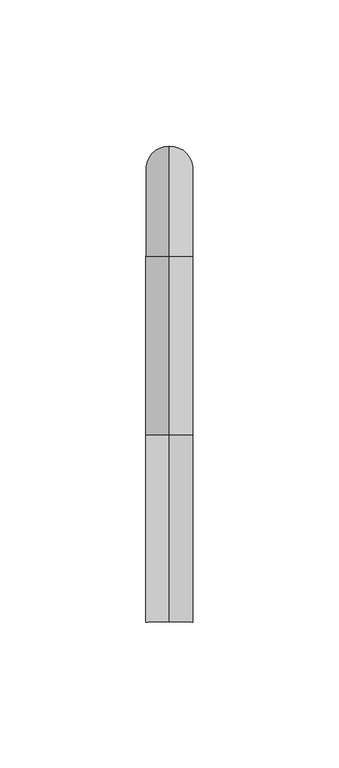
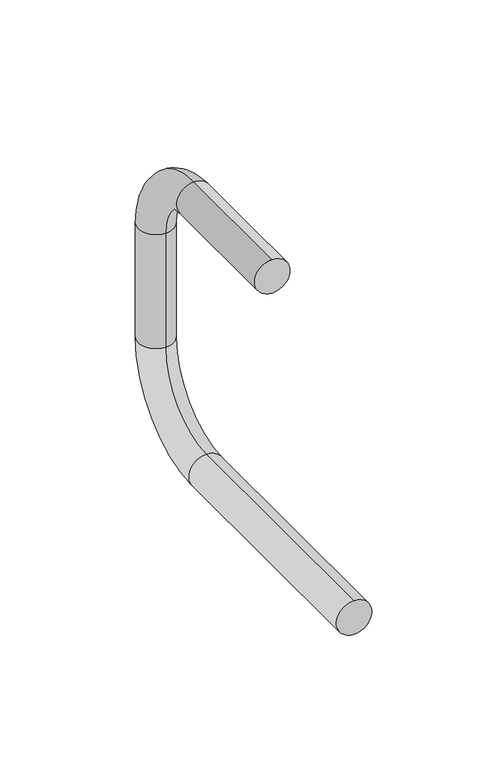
"""IFC4 building model written with IfcOpenShell, lengths in millimetres: pipe fitting geometry, Трубка Г-образная VTm.481.PC из стены : VTm.481.PC."""

from ifc_helpers import new_model, si_unit, point, frame, origin, place, context, project, spatial, circle_curve, ellipse_curve, trimmed, source, transform, mapped, element, save
from ifc_brep_helpers import plane_surface, cylinder_surface, revolved_surface, advanced_brep


def pipe_fitting_d927fdfb(model_context):
    return source(origin(), model_context, "Body", "AdvancedBrep", [
        advanced_brep(
        [(0.0, -115.0, -8.0), (0.0, -115.0, 8.0), (0.0, 0.2295571, -8.0), (0.0, 0.2295571, 8.0), (0.0, 32.0, 39.7704429), (0.0, 48.0, 39.7704429), (0.0, 48.0, 94.2295571), (0.0, 32.0, 94.2295571), (0.0, 10.2295571, 116.0), (0.0, 10.2295571, 132.0), (0.0, -50.9704429, 132.0), (0.0, -50.9704429, 116.0)],
        [
            (0, 1, circle_curve(frame((0.0, -115.0, 0.0), z_axis=(0.0, -1.0, 0.0), x_axis=(0.0, 0.0, 1.0)), 8.0)),
            (1, 0, circle_curve(frame((0.0, -115.0, 0.0), z_axis=(0.0, -1.0, 0.0), x_axis=(0.0, 0.0, 1.0)), 8.0)),
            (0, 2),
            (2, 3, circle_curve(frame((0.0, 0.2295571, 0.0), z_axis=(0.0, -1.0, 0.0), x_axis=(0.0, 0.0, 1.0)), 8.0)),
            (3, 1),
            (3, 2, circle_curve(frame((0.0, 0.2295571, 0.0), z_axis=(0.0, -1.0, 0.0), x_axis=(0.0, 0.0, 1.0)), 8.0)),
            (4, 3, circle_curve(frame((0.0, 0.2295571, 39.7704429), z_axis=(-1.0, 0.0, 0.0), x_axis=(0.0, 0.0, -1.0)), 31.7704429)),
            (2, 5, circle_curve(frame((0.0, 0.2295571, 39.7704429), z_axis=(1.0, 0.0, 0.0), x_axis=(0.0, 0.0, -1.0)), 47.7704429)),
            (5, 4, circle_curve(frame((0.0, 40.0, 39.7704429), z_axis=(0.0, 0.0, -1.0), x_axis=(0.0, -1.0, 0.0)), 8.0)),
            (4, 5, circle_curve(frame((0.0, 40.0, 39.7704429), z_axis=(0.0, 0.0, -1.0), x_axis=(0.0, -1.0, 0.0)), 8.0)),
            (5, 6),
            (6, 7, circle_curve(frame((0.0, 40.0, 94.2295571), z_axis=(0.0, 0.0, -1.0), x_axis=(0.0, -1.0, 0.0)), 8.0)),
            (7, 4),
            (7, 6, circle_curve(frame((0.0, 40.0, 94.2295571), z_axis=(0.0, 0.0, -1.0), x_axis=(0.0, -1.0, 0.0)), 8.0)),
            (8, 7, circle_curve(frame((0.0, 10.2295571, 94.2295571), z_axis=(-1.0, 0.0, 0.0), x_axis=(0.0, 1.0, 0.0)), 21.7704429)),
            (6, 9, circle_curve(frame((0.0, 10.2295571, 94.2295571), z_axis=(1.0, 0.0, 0.0), x_axis=(0.0, 1.0, 0.0)), 37.7704429)),
            (9, 8, circle_curve(frame((0.0, 10.2295571, 124.0), z_axis=(0.0, 1.0, 0.0), x_axis=(0.0, 0.0, -1.0)), 8.0)),
            (8, 9, circle_curve(frame((0.0, 10.2295571, 124.0), z_axis=(0.0, 1.0, 0.0), x_axis=(0.0, 0.0, -1.0)), 8.0)),
            (10, 11, circle_curve(frame((0.0, -50.9704429, 124.0), z_axis=(0.0, -1.0, 0.0), x_axis=(0.0, 0.0, -1.0)), 8.0)),
            (11, 10, circle_curve(frame((0.0, -50.9704429, 124.0), z_axis=(0.0, -1.0, 0.0), x_axis=(0.0, 0.0, -1.0)), 8.0)),
            (9, 10),
            (11, 8),
        ],
        [
            plane_surface(frame((0.0, -115.0, 0.0), z_axis=(0.0, -1.0, 0.0), x_axis=(1.0, 0.0, 0.0))),
            cylinder_surface(frame((0.0, -115.0, 0.0), z_axis=(0.0, -1.0, 0.0), x_axis=(0.0, 0.0, 1.0)), 8.0),
            revolved_surface(trimmed(ellipse_curve(frame((0.0, 0.2295571, 0.0), z_axis=(0.0, -1.0, 0.0), x_axis=(0.0, 0.0, 1.0)), 8.0, 8.0), [point((0.0, 0.2295571, -8.0))], [point((0.0, 0.2295571, 8.0))], True, "CARTESIAN"), (0.0, 0.2295571, 39.7704429), (1.0, 0.0, 0.0)),
            revolved_surface(trimmed(ellipse_curve(frame((0.0, 0.2295571, 0.0), z_axis=(0.0, -1.0, 0.0), x_axis=(0.0, 0.0, 1.0)), 8.0, 8.0), [point((0.0, 0.2295571, 8.0))], [point((0.0, 0.2295571, -8.0))], True, "CARTESIAN"), (0.0, 0.2295571, 39.7704429), (1.0, 0.0, 0.0)),
            cylinder_surface(frame((0.0, 40.0, 39.7704429), z_axis=(0.0, 0.0, -1.0), x_axis=(0.0, -1.0, 0.0)), 8.0),
            revolved_surface(trimmed(ellipse_curve(frame((0.0, 40.0, 94.2295571), z_axis=(0.0, 0.0, -1.0), x_axis=(0.0, -1.0, 0.0)), 8.0, 8.0), [point((0.0, 48.0, 94.2295571))], [point((0.0, 32.0, 94.2295571))], True, "CARTESIAN"), (0.0, 10.2295571, 94.2295571), (1.0, 0.0, 0.0)),
            revolved_surface(trimmed(ellipse_curve(frame((0.0, 40.0, 94.2295571), z_axis=(0.0, 0.0, -1.0), x_axis=(0.0, -1.0, 0.0)), 8.0, 8.0), [point((0.0, 32.0, 94.2295571))], [point((0.0, 48.0, 94.2295571))], True, "CARTESIAN"), (0.0, 10.2295571, 94.2295571), (1.0, 0.0, 0.0)),
            plane_surface(frame((0.0, -50.9704429, 124.0), z_axis=(0.0, -1.0, 0.0), x_axis=(1.0, 0.0, 0.0))),
            cylinder_surface(frame((0.0, 10.2295571, 124.0), z_axis=(0.0, 1.0, 0.0), x_axis=(0.0, 0.0, -1.0)), 8.0),
        ],
        [
            (0, [[1, 2]]),
            (1, [[-1, 3, 4, 5]]),
            (1, [[-2, -5, 6, -3]]),
            (2, [[7, -4, 8, 9]]),
            (3, [[-8, -6, -7, 10]]),
            (4, [[-9, 11, 12, 13]]),
            (4, [[-10, -13, 14, -11]]),
            (5, [[15, -12, 16, 17]]),
            (6, [[-16, -14, -15, 18]]),
            (7, [[19, 20]]),
            (8, [[-17, 21, -20, 22]]),
            (8, [[-18, -22, -19, -21]]),
        ],
    ),
    ])


if __name__ == "__main__":
    model = new_model("IFC4")
    model_context = context("Model", 3, world=origin())
    ifc_project = project(units=[si_unit("LENGTHUNIT", "METRE", prefix="MILLI")], contexts=[model_context])
    site = spatial("IfcSite", under=ifc_project)
    building = spatial("IfcBuilding", under=site)
    placement = place(None, origin())
    pipe_fitting_shape = pipe_fitting_d927fdfb(model_context)
    element("IfcPipeFitting", 1, ObjectType="Трубка Г-образная VTm.481.PC из стены : VTm.481.PC", at=placement, inside=building, context=model_context, shape_type="MappedRepresentation", body=[
        mapped(pipe_fitting_shape, transform((0.0, 0.0, 0.0), x_axis=(1.0, 0.0, 0.0), y_axis=(0.0, 1.0, 0.0), z_axis=(0.0, 0.0, 1.0))),
    ])
    save(model, "model.ifc")
